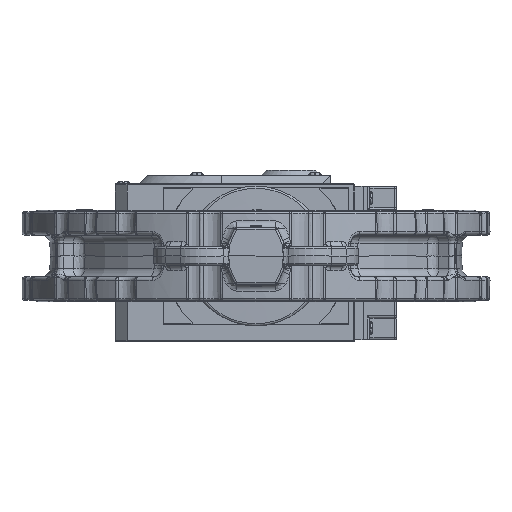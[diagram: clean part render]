
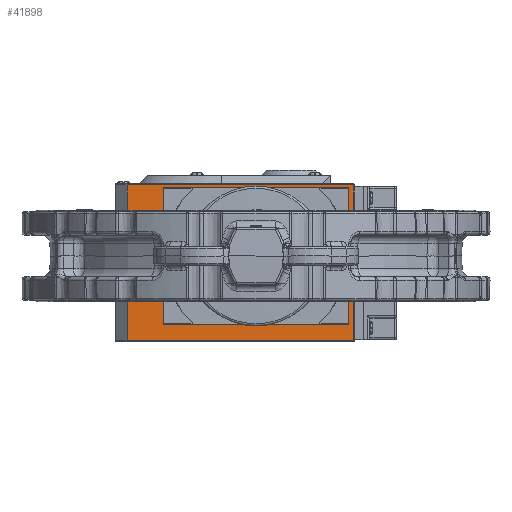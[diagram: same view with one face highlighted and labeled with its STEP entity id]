
A CAD part, front view. The second image highlights one B-rep face of the part: STEP entity #41898.
In plain terms, the highlighted planar face has unit normal (0, -1, 0).
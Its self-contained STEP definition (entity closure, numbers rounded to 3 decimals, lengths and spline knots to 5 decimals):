
#1948=FACE_BOUND('',#14366,.T.);
#3612=LINE('',#153054,#5606);
#3613=LINE('',#153056,#5607);
#3614=LINE('',#153058,#5608);
#3615=LINE('',#153059,#5609);
#3616=LINE('',#153060,#5610);
#3617=LINE('',#153061,#5611);
#3618=LINE('',#153062,#5612);
#3619=LINE('',#153063,#5613);
#5606=VECTOR('',#56953,0.14152);
#5607=VECTOR('',#56954,0.20573);
#5608=VECTOR('',#56955,0.14152);
#5609=VECTOR('',#56956,0.20573);
#5610=VECTOR('',#56957,0.166);
#5611=VECTOR('',#56958,0.12304);
#5612=VECTOR('',#56959,0.166);
#5613=VECTOR('',#56960,0.12304);
#6490=PLANE('',#46854);
#8610=CIRCLE('',#46680,0.001);
#8611=CIRCLE('',#46684,0.001);
#8612=CIRCLE('',#46688,0.001);
#8613=CIRCLE('',#46693,0.001);
#11589=FACE_OUTER_BOUND('',#14365,.T.);
#14365=EDGE_LOOP('',(#37345,#37346,#37347,#37348));
#14366=EDGE_LOOP('',(#37349,#37350,#37351,#37352,#37353,#37354,#37355,#37356));
#19512=VERTEX_POINT('',#151795);
#19513=VERTEX_POINT('',#151797);
#19519=VERTEX_POINT('',#151813);
#19520=VERTEX_POINT('',#151815);
#19529=VERTEX_POINT('',#151837);
#19530=VERTEX_POINT('',#151839);
#19542=VERTEX_POINT('',#151869);
#19543=VERTEX_POINT('',#151871);
#19803=VERTEX_POINT('',#153052);
#19804=VERTEX_POINT('',#153053);
#19805=VERTEX_POINT('',#153055);
#19806=VERTEX_POINT('',#153057);
#25425=EDGE_CURVE('',#19513,#19512,#8610,.F.);
#25434=EDGE_CURVE('',#19520,#19519,#8611,.F.);
#25446=EDGE_CURVE('',#19530,#19529,#8612,.F.);
#25462=EDGE_CURVE('',#19543,#19542,#8613,.F.);
#25743=EDGE_CURVE('',#19803,#19804,#3612,.T.);
#25744=EDGE_CURVE('',#19804,#19805,#3613,.T.);
#25745=EDGE_CURVE('',#19805,#19806,#3614,.T.);
#25746=EDGE_CURVE('',#19806,#19803,#3615,.F.);
#25747=EDGE_CURVE('',#19529,#19520,#3616,.T.);
#25748=EDGE_CURVE('',#19519,#19513,#3617,.T.);
#25749=EDGE_CURVE('',#19512,#19543,#3618,.T.);
#25750=EDGE_CURVE('',#19542,#19530,#3619,.T.);
#37345=ORIENTED_EDGE('',*,*,#25743,.T.);
#37346=ORIENTED_EDGE('',*,*,#25744,.T.);
#37347=ORIENTED_EDGE('',*,*,#25745,.T.);
#37348=ORIENTED_EDGE('',*,*,#25746,.T.);
#37349=ORIENTED_EDGE('',*,*,#25747,.T.);
#37350=ORIENTED_EDGE('',*,*,#25434,.T.);
#37351=ORIENTED_EDGE('',*,*,#25748,.T.);
#37352=ORIENTED_EDGE('',*,*,#25425,.T.);
#37353=ORIENTED_EDGE('',*,*,#25749,.T.);
#37354=ORIENTED_EDGE('',*,*,#25462,.T.);
#37355=ORIENTED_EDGE('',*,*,#25750,.T.);
#37356=ORIENTED_EDGE('',*,*,#25446,.T.);
#41898=ADVANCED_FACE('',(#11589,#1948),#6490,.T.);
#46680=AXIS2_PLACEMENT_3D('',#151798,#56418,#56419);
#46684=AXIS2_PLACEMENT_3D('',#151816,#56433,#56434);
#46688=AXIS2_PLACEMENT_3D('',#151840,#56451,#56452);
#46693=AXIS2_PLACEMENT_3D('',#151872,#56475,#56476);
#46854=AXIS2_PLACEMENT_3D('',#153051,#56951,#56952);
#56418=DIRECTION('center_axis',(0.,-1.,0.));
#56419=DIRECTION('ref_axis',(0.,0.,-1.));
#56433=DIRECTION('center_axis',(0.,-1.,0.));
#56434=DIRECTION('ref_axis',(0.,0.,-1.));
#56451=DIRECTION('center_axis',(0.,-1.,0.));
#56452=DIRECTION('ref_axis',(0.,0.,-1.));
#56475=DIRECTION('center_axis',(0.,-1.,0.));
#56476=DIRECTION('ref_axis',(0.,0.,-1.));
#56951=DIRECTION('center_axis',(0.,-1.,0.));
#56952=DIRECTION('ref_axis',(0.,0.,-1.));
#56953=DIRECTION('',(0.,0.,-1.));
#56954=DIRECTION('',(1.,0.,0.));
#56955=DIRECTION('',(0.,0.,1.));
#56956=DIRECTION('',(1.,0.,0.));
#56957=DIRECTION('',(-1.,0.,0.));
#56958=DIRECTION('',(0.,0.,1.));
#56959=DIRECTION('',(1.,0.,0.));
#56960=DIRECTION('',(0.,0.,-1.));
#151795=CARTESIAN_POINT('',(-0.083,-0.05438,0.06252));
#151797=CARTESIAN_POINT('',(-0.084,-0.05438,0.06152));
#151798=CARTESIAN_POINT('Origin',(-0.083,-0.05438,0.06152));
#151813=CARTESIAN_POINT('',(-0.084,-0.05438,-0.06152));
#151815=CARTESIAN_POINT('',(-0.083,-0.05438,-0.06252));
#151816=CARTESIAN_POINT('Origin',(-0.083,-0.05438,-0.06152));
#151837=CARTESIAN_POINT('',(0.083,-0.05438,-0.06252));
#151839=CARTESIAN_POINT('',(0.084,-0.05438,-0.06152));
#151840=CARTESIAN_POINT('Origin',(0.083,-0.05438,-0.06152));
#151869=CARTESIAN_POINT('',(0.084,-0.05438,0.06152));
#151871=CARTESIAN_POINT('',(0.083,-0.05438,0.06252));
#151872=CARTESIAN_POINT('Origin',(0.083,-0.05438,0.06152));
#153051=CARTESIAN_POINT('Origin',(-0.128,-0.05438,-0.078));
#153052=CARTESIAN_POINT('',(-0.11713,-0.05438,0.06452));
#153053=CARTESIAN_POINT('',(-0.11713,-0.05438,-0.077));
#153054=CARTESIAN_POINT('',(-0.11713,-0.05438,0.06452));
#153055=CARTESIAN_POINT('',(0.0886,-0.05438,-0.077));
#153056=CARTESIAN_POINT('',(-0.11713,-0.05438,-0.077));
#153057=CARTESIAN_POINT('',(0.0886,-0.05438,0.06452));
#153058=CARTESIAN_POINT('',(0.0886,-0.05438,-0.077));
#153059=CARTESIAN_POINT('',(-0.11713,-0.05438,0.06452));
#153060=CARTESIAN_POINT('',(0.083,-0.05438,-0.06252));
#153061=CARTESIAN_POINT('',(-0.084,-0.05438,-0.06152));
#153062=CARTESIAN_POINT('',(-0.083,-0.05438,0.06252));
#153063=CARTESIAN_POINT('',(0.084,-0.05438,0.06152));
